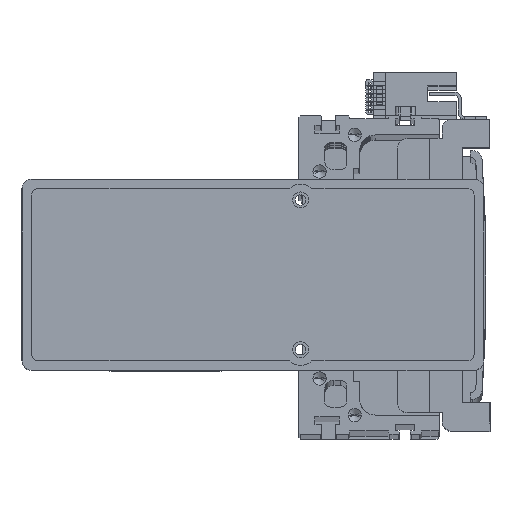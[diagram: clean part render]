
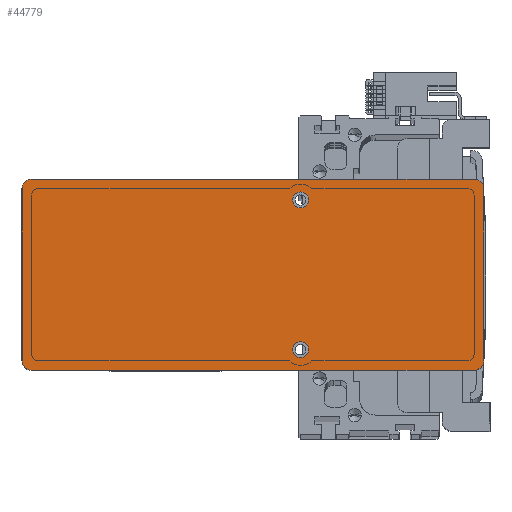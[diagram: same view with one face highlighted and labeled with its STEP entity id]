
A CAD part, top view. The second image highlights one B-rep face of the part: STEP entity #44779.
In plain terms, the highlighted planar face has unit normal (0, 0, 1) as drawn and (0, 0, -1) by its records, which use the part's own axes.
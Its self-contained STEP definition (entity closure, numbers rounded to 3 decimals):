
#62 = DIRECTION ( 'NONE',  ( -1., 0., 0. ) ) ;
#597 = EDGE_CURVE ( 'NONE', #19955, #7731, #12514, .T. ) ;
#615 = CARTESIAN_POINT ( 'NONE',  ( 15., 23.5, 0. ) ) ;
#647 = CARTESIAN_POINT ( 'NONE',  ( 15., -23.5, 0. ) ) ;
#884 = VECTOR ( 'NONE', #23925, 1000. ) ;
#1002 = VERTEX_POINT ( 'NONE', #16123 ) ;
#1319 = DIRECTION ( 'NONE',  ( 1., 0., 0. ) ) ;
#1687 = DIRECTION ( 'NONE',  ( -1., 0., 0. ) ) ;
#1760 = CIRCLE ( 'NONE', #23037, 2.5 ) ;
#1972 = AXIS2_PLACEMENT_3D ( 'NONE', #44367, #22966, #1687 ) ;
#2135 = CIRCLE ( 'NONE', #20278, 2.5 ) ;
#2154 = ORIENTED_EDGE ( 'NONE', *, *, #4723, .T. ) ;
#2994 = DIRECTION ( 'NONE',  ( 0., 0., -1. ) ) ;
#3116 = CARTESIAN_POINT ( 'NONE',  ( -69.5, -30., 0. ) ) ;
#3322 = ORIENTED_EDGE ( 'NONE', *, *, #24293, .F. ) ;
#3382 = AXIS2_PLACEMENT_3D ( 'NONE', #24322, #2994, #27923 ) ;
#3852 = ORIENTED_EDGE ( 'NONE', *, *, #40255, .F. ) ;
#4025 = EDGE_CURVE ( 'NONE', #1002, #16702, #2135, .T. ) ;
#4154 = DIRECTION ( 'NONE',  ( -1., 0., 0. ) ) ;
#4188 = DIRECTION ( 'NONE',  ( -1., 0., 0. ) ) ;
#4723 = EDGE_CURVE ( 'NONE', #29461, #23494, #46040, .T. ) ;
#5347 = ORIENTED_EDGE ( 'NONE', *, *, #15833, .T. ) ;
#6314 = CARTESIAN_POINT ( 'NONE',  ( 12.5, -23.5, 0. ) ) ;
#6396 = AXIS2_PLACEMENT_3D ( 'NONE', #10037, #35047, #13589 ) ;
#7298 = DIRECTION ( 'NONE',  ( 0., 0., -1. ) ) ;
#7731 = VERTEX_POINT ( 'NONE', #34079 ) ;
#8135 = EDGE_LOOP ( 'NONE', ( #10286, #5347, #10681, #2154, #3852, #9758, #42312, #25286 ) ) ;
#9457 = CIRCLE ( 'NONE', #1972, 2.5 ) ;
#9758 = ORIENTED_EDGE ( 'NONE', *, *, #17619, .T. ) ;
#10037 = CARTESIAN_POINT ( 'NONE',  ( 69.5, 27., 0. ) ) ;
#10207 = VERTEX_POINT ( 'NONE', #15488 ) ;
#10286 = ORIENTED_EDGE ( 'NONE', *, *, #25184, .F. ) ;
#10681 = ORIENTED_EDGE ( 'NONE', *, *, #17334, .F. ) ;
#11015 = EDGE_LOOP ( 'NONE', ( #29204, #3322 ) ) ;
#12514 = CIRCLE ( 'NONE', #35078, 2.5 ) ;
#13189 = CIRCLE ( 'NONE', #3382, 3. ) ;
#13589 = DIRECTION ( 'NONE',  ( 1., 0., 0. ) ) ;
#14286 = DIRECTION ( 'NONE',  ( 0., 0., -1. ) ) ;
#14494 = CARTESIAN_POINT ( 'NONE',  ( 72.5, -30., 0. ) ) ;
#14888 = PLANE ( 'NONE',  #32235 ) ;
#15488 = CARTESIAN_POINT ( 'NONE',  ( 72.5, -27., 0. ) ) ;
#15833 = EDGE_CURVE ( 'NONE', #10207, #19952, #44826, .T. ) ;
#15908 = FACE_BOUND ( 'NONE', #34572, .T. ) ;
#16123 = CARTESIAN_POINT ( 'NONE',  ( 12.5, 23.5, 0. ) ) ;
#16702 = VERTEX_POINT ( 'NONE', #28464 ) ;
#17015 = AXIS2_PLACEMENT_3D ( 'NONE', #44039, #22605, #1319 ) ;
#17026 = FACE_OUTER_BOUND ( 'NONE', #8135, .T. ) ;
#17334 = EDGE_CURVE ( 'NONE', #29461, #19952, #23868, .T. ) ;
#17619 = EDGE_CURVE ( 'NONE', #44096, #43636, #13189, .T. ) ;
#18635 = DIRECTION ( 'NONE',  ( 0., 0., 1. ) ) ;
#19952 = VERTEX_POINT ( 'NONE', #41886 ) ;
#19955 = VERTEX_POINT ( 'NONE', #6314 ) ;
#20278 = AXIS2_PLACEMENT_3D ( 'NONE', #615, #25491, #4154 ) ;
#20326 = CARTESIAN_POINT ( 'NONE',  ( -72.5, -30., 0. ) ) ;
#21107 = VERTEX_POINT ( 'NONE', #34975 ) ;
#21661 = DIRECTION ( 'NONE',  ( 0., 1., 0. ) ) ;
#22605 = DIRECTION ( 'NONE',  ( 0., 0., -1. ) ) ;
#22633 = EDGE_CURVE ( 'NONE', #21107, #43636, #29283, .T. ) ;
#22806 = ORIENTED_EDGE ( 'NONE', *, *, #41601, .F. ) ;
#22966 = DIRECTION ( 'NONE',  ( 0., 0., -1. ) ) ;
#23037 = AXIS2_PLACEMENT_3D ( 'NONE', #647, #25542, #4188 ) ;
#23494 = VERTEX_POINT ( 'NONE', #36058 ) ;
#23868 = LINE ( 'NONE', #39527, #41768 ) ;
#23925 = DIRECTION ( 'NONE',  ( 0., -1., 0. ) ) ;
#24293 = EDGE_CURVE ( 'NONE', #16702, #1002, #9457, .T. ) ;
#24322 = CARTESIAN_POINT ( 'NONE',  ( -69.5, 27., 0. ) ) ;
#24961 = VERTEX_POINT ( 'NONE', #27310 ) ;
#25184 = EDGE_CURVE ( 'NONE', #10207, #24961, #36706, .T. ) ;
#25286 = ORIENTED_EDGE ( 'NONE', *, *, #32971, .T. ) ;
#25389 = AXIS2_PLACEMENT_3D ( 'NONE', #35752, #14286, #39318 ) ;
#25491 = DIRECTION ( 'NONE',  ( 0., 0., -1. ) ) ;
#25542 = DIRECTION ( 'NONE',  ( 0., 0., -1. ) ) ;
#27310 = CARTESIAN_POINT ( 'NONE',  ( 72.5, 27., 0. ) ) ;
#27923 = DIRECTION ( 'NONE',  ( 1., 0., 0. ) ) ;
#28464 = CARTESIAN_POINT ( 'NONE',  ( 17.5, 23.5, 0. ) ) ;
#28651 = CARTESIAN_POINT ( 'NONE',  ( 15., -23.5, 0. ) ) ;
#29204 = ORIENTED_EDGE ( 'NONE', *, *, #4025, .F. ) ;
#29283 = LINE ( 'NONE', #42747, #46007 ) ;
#29461 = VERTEX_POINT ( 'NONE', #3116 ) ;
#32235 = AXIS2_PLACEMENT_3D ( 'NONE', #40041, #18635, #43638 ) ;
#32257 = DIRECTION ( 'NONE',  ( -1., 0., 0. ) ) ;
#32971 = EDGE_CURVE ( 'NONE', #21107, #24961, #36945, .T. ) ;
#34079 = CARTESIAN_POINT ( 'NONE',  ( 17.5, -23.5, 0. ) ) ;
#34572 = EDGE_LOOP ( 'NONE', ( #39073, #22806 ) ) ;
#34975 = CARTESIAN_POINT ( 'NONE',  ( 69.5, 30., 0. ) ) ;
#35047 = DIRECTION ( 'NONE',  ( 0., 0., -1. ) ) ;
#35078 = AXIS2_PLACEMENT_3D ( 'NONE', #28651, #7298, #32257 ) ;
#35752 = CARTESIAN_POINT ( 'NONE',  ( -69.5, -27., 0. ) ) ;
#35944 = DIRECTION ( 'NONE',  ( 1., 0., 0. ) ) ;
#36058 = CARTESIAN_POINT ( 'NONE',  ( -72.5, -27., 0. ) ) ;
#36125 = CARTESIAN_POINT ( 'NONE',  ( -69.5, 30., 0. ) ) ;
#36706 = LINE ( 'NONE', #14494, #45032 ) ;
#36945 = CIRCLE ( 'NONE', #6396, 3. ) ;
#38836 = LINE ( 'NONE', #20326, #884 ) ;
#39073 = ORIENTED_EDGE ( 'NONE', *, *, #597, .F. ) ;
#39318 = DIRECTION ( 'NONE',  ( 1., 0., 0. ) ) ;
#39527 = CARTESIAN_POINT ( 'NONE',  ( 72.5, -30., 0. ) ) ;
#40041 = CARTESIAN_POINT ( 'NONE',  ( 0., 0., 0. ) ) ;
#40255 = EDGE_CURVE ( 'NONE', #44096, #23494, #38836, .T. ) ;
#41601 = EDGE_CURVE ( 'NONE', #7731, #19955, #1760, .T. ) ;
#41768 = VECTOR ( 'NONE', #35944, 1000. ) ;
#41886 = CARTESIAN_POINT ( 'NONE',  ( 69.5, -30., 0. ) ) ;
#42312 = ORIENTED_EDGE ( 'NONE', *, *, #22633, .F. ) ;
#42747 = CARTESIAN_POINT ( 'NONE',  ( 72.5, 30., 0. ) ) ;
#43636 = VERTEX_POINT ( 'NONE', #36125 ) ;
#43638 = DIRECTION ( 'NONE',  ( 1., 0., 0. ) ) ;
#44039 = CARTESIAN_POINT ( 'NONE',  ( 69.5, -27., 0. ) ) ;
#44096 = VERTEX_POINT ( 'NONE', #45829 ) ;
#44367 = CARTESIAN_POINT ( 'NONE',  ( 15., 23.5, 0. ) ) ;
#44380 = FACE_BOUND ( 'NONE', #11015, .T. ) ;
#44779 = ADVANCED_FACE ( 'NONE', ( #44380, #15908, #17026 ), #14888, .F. ) ;
#44826 = CIRCLE ( 'NONE', #17015, 3. ) ;
#45032 = VECTOR ( 'NONE', #21661, 1000. ) ;
#45829 = CARTESIAN_POINT ( 'NONE',  ( -72.5, 27., 0. ) ) ;
#46007 = VECTOR ( 'NONE', #62, 1000. ) ;
#46040 = CIRCLE ( 'NONE', #25389, 3. ) ;
